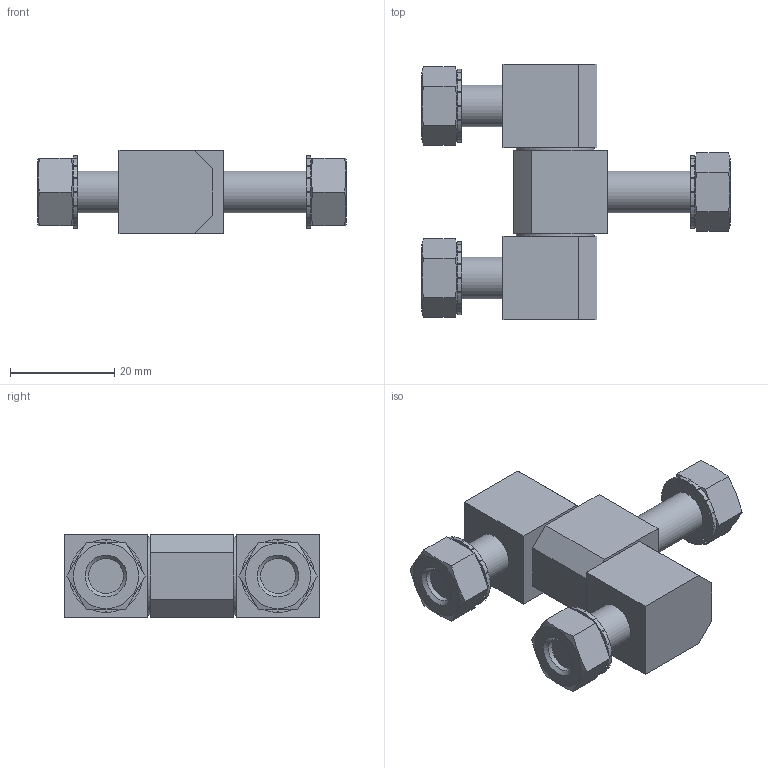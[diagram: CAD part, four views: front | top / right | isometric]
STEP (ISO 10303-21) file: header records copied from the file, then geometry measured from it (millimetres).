
FILE_DESCRIPTION( ( 'STEP AP203' ), '1' );
FILE_NAME( 'C:/Temp/Ganter_Step_05_03_2020/data/3_3/gn_129_5/Stainless Steel-Hinge GN 129.5-16-D-A4 (0-16-8).stp', '2020-03-12T11:53:59', ( 'License CC BY-ND 4.0' ), ( 'CADENAS' ), ' ', 'PARTsolutions', ' ' );
FILE_SCHEMA( ( 'CONFIG_CONTROL_DESIGN' ) );
Length unit declared in the file: millimetre
Products named in the file (4): Stainless Steel-Hinge GN 129.5-16-D-A4 (0-16-8); _Edelstahl-Scharnier GN 129.5-16-D-NI (8)-1; _Edelstahl-Scharnier GN 129.5-16-D-NI (16)-2; HI_Stainless Steel-Hinge GN 129.5-16-D-NI-6
Assembly tree (5 placements, depth 2):
  Stainless Steel-Hinge GN 129.5-16-D-A4 (0-16-8)
    _Edelstahl-Scharnier GN 129.5-16-D-NI (8)-1
    _Edelstahl-Scharnier GN 129.5-16-D-NI (16)-2
    HI_Stainless Steel-Hinge GN 129.5-16-D-NI-6  x3
Bounding box: 59.2 x 49 x 16 mm (x, y, z)
Volume: 18366.7 mm3; surface area: 8986.1 mm2
Topology: 5 solids, 5 shells, 324 faces, 806 edges, 502 vertices
Faces by surface type: plane 248, cylinder 61, cone 15
Full cylindrical faces by diameter (mm): 6.647 x3, 8 x4, 8.1 x1, 8.2 x3, 15 x2
Entity records: 3949 total; most frequent: CARTESIAN_POINT 704, DIRECTION 660, ORIENTED_EDGE 608, EDGE_CURVE 304, AXIS2_PLACEMENT_3D 228, LINE 204, VECTOR 204, VERTEX_POINT 200
